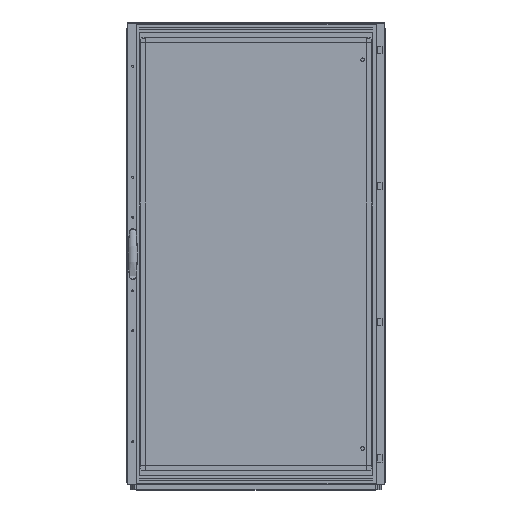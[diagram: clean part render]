
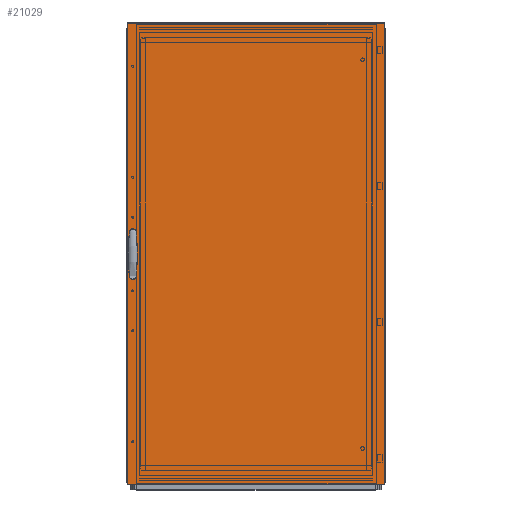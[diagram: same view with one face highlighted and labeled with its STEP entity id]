
A CAD part, top view. The second image highlights one B-rep face of the part: STEP entity #21029.
In plain terms, the highlighted planar face has unit normal (0, 0, 1) as drawn and (0, 0, -1) by its records, which use the part's own axes.
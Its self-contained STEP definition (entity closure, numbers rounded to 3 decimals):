
#307=CIRCLE('',#23228,2.6);
#308=CIRCLE('',#23229,2.6);
#3275=ORIENTED_EDGE('',*,*,#7864,.T.);
#3276=ORIENTED_EDGE('',*,*,#7865,.T.);
#3277=ORIENTED_EDGE('',*,*,#7866,.T.);
#3278=ORIENTED_EDGE('',*,*,#7867,.T.);
#3279=ORIENTED_EDGE('',*,*,#7868,.T.);
#3280=ORIENTED_EDGE('',*,*,#7869,.T.);
#3281=ORIENTED_EDGE('',*,*,#7870,.T.);
#3282=ORIENTED_EDGE('',*,*,#7871,.T.);
#3283=ORIENTED_EDGE('',*,*,#7872,.T.);
#3284=ORIENTED_EDGE('',*,*,#7873,.T.);
#3285=ORIENTED_EDGE('',*,*,#7874,.T.);
#3286=ORIENTED_EDGE('',*,*,#7875,.T.);
#3287=ORIENTED_EDGE('',*,*,#7876,.T.);
#3288=ORIENTED_EDGE('',*,*,#7877,.T.);
#3289=ORIENTED_EDGE('',*,*,#7878,.T.);
#3290=ORIENTED_EDGE('',*,*,#7879,.T.);
#3291=ORIENTED_EDGE('',*,*,#7880,.T.);
#3292=ORIENTED_EDGE('',*,*,#7881,.F.);
#3293=ORIENTED_EDGE('',*,*,#7882,.F.);
#3294=ORIENTED_EDGE('',*,*,#7883,.T.);
#3295=ORIENTED_EDGE('',*,*,#7884,.T.);
#3296=ORIENTED_EDGE('',*,*,#7885,.T.);
#7864=EDGE_CURVE('',#10389,#10390,#12671,.T.);
#7865=EDGE_CURVE('',#10390,#10391,#12672,.T.);
#7866=EDGE_CURVE('',#10391,#10392,#12673,.T.);
#7867=EDGE_CURVE('',#10392,#10393,#12674,.T.);
#7868=EDGE_CURVE('',#10393,#10394,#12675,.T.);
#7869=EDGE_CURVE('',#10394,#10395,#12676,.T.);
#7870=EDGE_CURVE('',#10395,#10396,#12677,.T.);
#7871=EDGE_CURVE('',#10396,#10397,#12678,.T.);
#7872=EDGE_CURVE('',#10397,#10398,#12679,.T.);
#7873=EDGE_CURVE('',#10398,#10399,#12680,.T.);
#7874=EDGE_CURVE('',#10399,#10400,#12681,.T.);
#7875=EDGE_CURVE('',#10400,#10401,#12682,.T.);
#7876=EDGE_CURVE('',#10401,#10402,#12683,.T.);
#7877=EDGE_CURVE('',#10402,#10403,#12684,.T.);
#7878=EDGE_CURVE('',#10403,#10404,#12685,.T.);
#7879=EDGE_CURVE('',#10404,#10389,#12686,.T.);
#7880=EDGE_CURVE('',#10405,#10406,#12687,.T.);
#7881=EDGE_CURVE('',#10407,#10406,#12688,.T.);
#7882=EDGE_CURVE('',#10408,#10407,#12689,.T.);
#7883=EDGE_CURVE('',#10408,#10405,#12690,.T.);
#7884=EDGE_CURVE('',#10409,#10409,#307,.T.);
#7885=EDGE_CURVE('',#10410,#10410,#308,.T.);
#10389=VERTEX_POINT('',#32426);
#10390=VERTEX_POINT('',#32427);
#10391=VERTEX_POINT('',#32429);
#10392=VERTEX_POINT('',#32431);
#10393=VERTEX_POINT('',#32433);
#10394=VERTEX_POINT('',#32435);
#10395=VERTEX_POINT('',#32437);
#10396=VERTEX_POINT('',#32439);
#10397=VERTEX_POINT('',#32441);
#10398=VERTEX_POINT('',#32443);
#10399=VERTEX_POINT('',#32445);
#10400=VERTEX_POINT('',#32447);
#10401=VERTEX_POINT('',#32449);
#10402=VERTEX_POINT('',#32451);
#10403=VERTEX_POINT('',#32453);
#10404=VERTEX_POINT('',#32455);
#10405=VERTEX_POINT('',#32458);
#10406=VERTEX_POINT('',#32459);
#10407=VERTEX_POINT('',#32461);
#10408=VERTEX_POINT('',#32463);
#10409=VERTEX_POINT('',#32466);
#10410=VERTEX_POINT('',#32468);
#12671=LINE('',#32425,#15321);
#12672=LINE('',#32428,#15322);
#12673=LINE('',#32430,#15323);
#12674=LINE('',#32432,#15324);
#12675=LINE('',#32434,#15325);
#12676=LINE('',#32436,#15326);
#12677=LINE('',#32438,#15327);
#12678=LINE('',#32440,#15328);
#12679=LINE('',#32442,#15329);
#12680=LINE('',#32444,#15330);
#12681=LINE('',#32446,#15331);
#12682=LINE('',#32448,#15332);
#12683=LINE('',#32450,#15333);
#12684=LINE('',#32452,#15334);
#12685=LINE('',#32454,#15335);
#12686=LINE('',#32456,#15336);
#12687=LINE('',#32457,#15337);
#12688=LINE('',#32460,#15338);
#12689=LINE('',#32462,#15339);
#12690=LINE('',#32464,#15340);
#15321=VECTOR('',#26542,1000.);
#15322=VECTOR('',#26543,1000.);
#15323=VECTOR('',#26544,1000.);
#15324=VECTOR('',#26545,1000.);
#15325=VECTOR('',#26546,1000.);
#15326=VECTOR('',#26547,1000.);
#15327=VECTOR('',#26548,1000.);
#15328=VECTOR('',#26549,1000.);
#15329=VECTOR('',#26550,1000.);
#15330=VECTOR('',#26551,1000.);
#15331=VECTOR('',#26552,1000.);
#15332=VECTOR('',#26553,1000.);
#15333=VECTOR('',#26554,1000.);
#15334=VECTOR('',#26555,1000.);
#15335=VECTOR('',#26556,1000.);
#15336=VECTOR('',#26557,1000.);
#15337=VECTOR('',#26558,1000.);
#15338=VECTOR('',#26559,1000.);
#15339=VECTOR('',#26560,1000.);
#15340=VECTOR('',#26561,1000.);
#17442=EDGE_LOOP('',(#3275,#3276,#3277,#3278,#3279,#3280,#3281,#3282,#3283,
#3284,#3285,#3286,#3287,#3288,#3289,#3290));
#17443=EDGE_LOOP('',(#3291,#3292,#3293,#3294));
#17444=EDGE_LOOP('',(#3295));
#17445=EDGE_LOOP('',(#3296));
#18810=FACE_BOUND('',#17442,.T.);
#18811=FACE_BOUND('',#17443,.T.);
#18812=FACE_BOUND('',#17444,.T.);
#18813=FACE_BOUND('',#17445,.T.);
#19970=PLANE('',#23227);
#21029=ADVANCED_FACE('',(#18810,#18811,#18812,#18813),#19970,.F.);
#23227=AXIS2_PLACEMENT_3D('',#32424,#26540,#26541);
#23228=AXIS2_PLACEMENT_3D('',#32465,#26562,#26563);
#23229=AXIS2_PLACEMENT_3D('',#32467,#26564,#26565);
#26540=DIRECTION('',(0.,0.,1.));
#26541=DIRECTION('',(1.,0.,0.));
#26542=DIRECTION('',(0.,-1.,0.));
#26543=DIRECTION('',(0.342,-0.94,0.));
#26544=DIRECTION('',(1.,0.,0.));
#26545=DIRECTION('',(0.,1.,0.));
#26546=DIRECTION('',(1.,0.,0.));
#26547=DIRECTION('',(0.,-1.,0.));
#26548=DIRECTION('',(1.,0.,0.));
#26549=DIRECTION('',(0.342,0.94,0.));
#26550=DIRECTION('',(0.,1.,0.));
#26551=DIRECTION('',(-0.342,0.94,0.));
#26552=DIRECTION('',(-1.,0.,0.));
#26553=DIRECTION('',(0.,-1.,0.));
#26554=DIRECTION('',(-1.,0.,0.));
#26555=DIRECTION('',(0.,1.,0.));
#26556=DIRECTION('',(-1.,0.,0.));
#26557=DIRECTION('',(-0.342,-0.94,0.));
#26558=DIRECTION('',(-1.,0.,0.));
#26559=DIRECTION('',(0.,-1.,0.));
#26560=DIRECTION('',(-1.,0.,0.));
#26561=DIRECTION('',(0.,-1.,0.));
#26562=DIRECTION('',(0.,0.,1.));
#26563=DIRECTION('',(1.,0.,0.));
#26564=DIRECTION('',(0.,0.,1.));
#26565=DIRECTION('',(1.,0.,0.));
#32424=CARTESIAN_POINT('',(496.5,1782.,-16.8));
#32425=CARTESIAN_POINT('',(462.95,956.256,-16.8));
#32426=CARTESIAN_POINT('',(462.95,956.256,-16.8));
#32427=CARTESIAN_POINT('',(462.95,825.744,-16.8));
#32428=CARTESIAN_POINT('',(462.95,825.744,-16.8));
#32429=CARTESIAN_POINT('',(464.95,820.25,-16.8));
#32430=CARTESIAN_POINT('',(464.95,820.25,-16.8));
#32431=CARTESIAN_POINT('',(470.2,820.25,-16.8));
#32432=CARTESIAN_POINT('',(470.2,820.25,-16.8));
#32433=CARTESIAN_POINT('',(470.2,828.,-16.8));
#32434=CARTESIAN_POINT('',(470.2,828.,-16.8));
#32435=CARTESIAN_POINT('',(481.2,828.,-16.8));
#32436=CARTESIAN_POINT('',(481.2,828.,-16.8));
#32437=CARTESIAN_POINT('',(481.2,820.25,-16.8));
#32438=CARTESIAN_POINT('',(481.2,820.25,-16.8));
#32439=CARTESIAN_POINT('',(486.45,820.25,-16.8));
#32440=CARTESIAN_POINT('',(486.45,820.25,-16.8));
#32441=CARTESIAN_POINT('',(488.45,825.744,-16.8));
#32442=CARTESIAN_POINT('',(488.45,825.744,-16.8));
#32443=CARTESIAN_POINT('',(488.45,956.256,-16.8));
#32444=CARTESIAN_POINT('',(488.45,956.256,-16.8));
#32445=CARTESIAN_POINT('',(486.45,961.75,-16.8));
#32446=CARTESIAN_POINT('',(486.45,961.75,-16.8));
#32447=CARTESIAN_POINT('',(481.2,961.75,-16.8));
#32448=CARTESIAN_POINT('',(481.2,961.75,-16.8));
#32449=CARTESIAN_POINT('',(481.2,954.,-16.8));
#32450=CARTESIAN_POINT('',(481.2,954.,-16.8));
#32451=CARTESIAN_POINT('',(470.2,954.,-16.8));
#32452=CARTESIAN_POINT('',(470.2,954.,-16.8));
#32453=CARTESIAN_POINT('',(470.2,961.75,-16.8));
#32454=CARTESIAN_POINT('',(470.2,961.75,-16.8));
#32455=CARTESIAN_POINT('',(464.95,961.75,-16.8));
#32456=CARTESIAN_POINT('',(464.95,961.75,-16.8));
#32457=CARTESIAN_POINT('',(496.5,0.,-16.8));
#32458=CARTESIAN_POINT('',(496.5,0.,-16.8));
#32459=CARTESIAN_POINT('',(-496.5,0.,-16.8));
#32460=CARTESIAN_POINT('',(-496.5,1782.,-16.8));
#32461=CARTESIAN_POINT('',(-496.5,1782.,-16.8));
#32462=CARTESIAN_POINT('',(496.5,1782.,-16.8));
#32463=CARTESIAN_POINT('',(496.5,1782.,-16.8));
#32464=CARTESIAN_POINT('',(496.5,1782.,-16.8));
#32465=CARTESIAN_POINT('',(475.7,961.,-16.8));
#32466=CARTESIAN_POINT('',(478.3,961.,-16.8));
#32467=CARTESIAN_POINT('',(475.7,821.,-16.8));
#32468=CARTESIAN_POINT('',(478.3,821.,-16.8));
